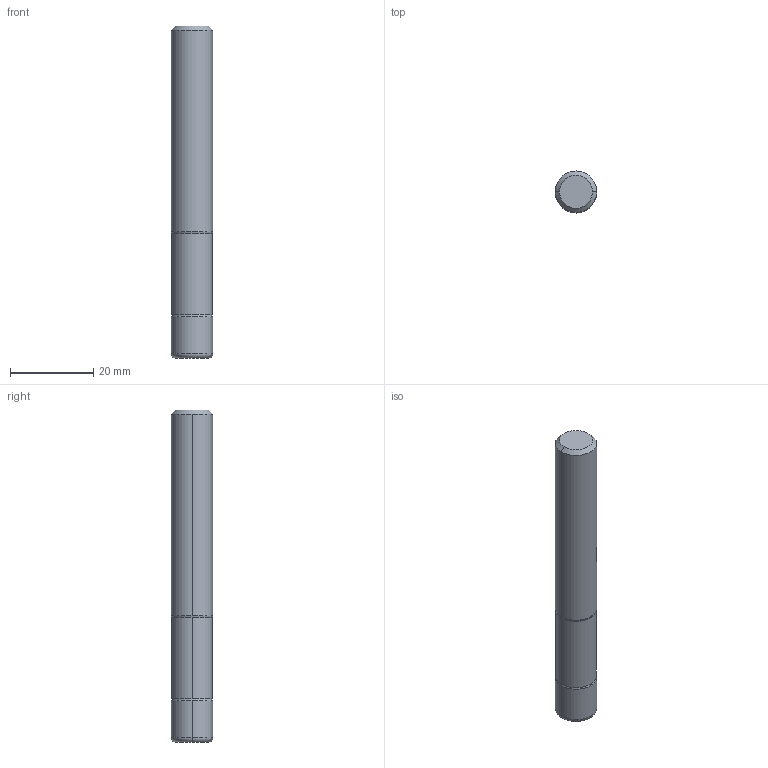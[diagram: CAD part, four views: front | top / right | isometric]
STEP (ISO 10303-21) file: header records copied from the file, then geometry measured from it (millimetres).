
FILE_DESCRIPTION (( 'STEP AP214' ), '1' );
FILE_NAME ('560.902.75_3D-model.step', '2022-02-18T16:04:11', ( '' ), ( '' ), 'SwSTEP 2.0', 'SolidWorks 2020', '' );
FILE_SCHEMA (( 'AUTOMOTIVE_DESIGN' ));
Length unit declared in the file: millimetre
Products named in the file (3): CUT-3D^Baugr78; 560.902.75_3D-model; NOCUT-3D^Baugr78
Assembly tree (2 placements, depth 2):
  560.902.75_3D-model
    CUT-3D^Baugr78
    NOCUT-3D^Baugr78
Bounding box: 10 x 10 x 80 mm (x, y, z)
Volume: 6199.9 mm3; surface area: 2782 mm2
Topology: 2 solids, 2 shells, 20 faces, 36 edges, 20 vertices
Faces by surface type: cylinder 6, cone 6, torus 4, plane 4
Entity records: 610 total; most frequent: DIRECTION 116, CARTESIAN_POINT 84, ORIENTED_EDGE 72, AXIS2_PLACEMENT_3D 52, EDGE_CURVE 36, CIRCLE 24, FACE_OUTER_BOUND 20, EDGE_LOOP 20
